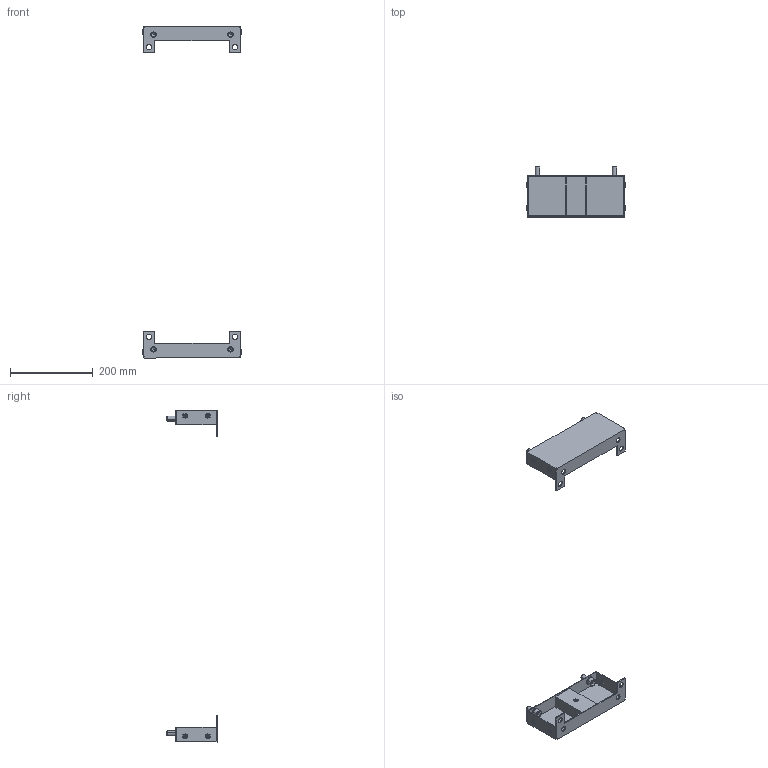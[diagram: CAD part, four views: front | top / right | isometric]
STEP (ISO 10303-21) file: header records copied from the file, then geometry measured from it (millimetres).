
FILE_DESCRIPTION (( 'STEP AP203' ), '1' );
FILE_NAME ('R6PLB30 H=800.STEP', '2025-05-16T11:40:33', ( '' ), ( '' ), 'SwSTEP 2.0', 'SolidWorks 2022', '' );
FILE_SCHEMA (( 'CONFIG_CONTROL_DESIGN' ));
Length unit declared in the file: millimetre
Products named in the file (8): RB.3309.00.01.0 simple_-01; M12x25 DIN 912 HX cl.8,8 Zinc_stright; RB.3309.00.00.0 СБ simple_-01; M6 MGS-MPO-0635_straight; R6PLB30 H=800; 12 DIN 6798 A Zinc; RB.3309.00.02.0 simple; M6 MGS-MPO-0635_thread
Assembly tree (17 placements, depth 3):
  R6PLB30 H=800
    RB.3309.00.00.0 СБ simple_-01  x2
      RB.3309.00.01.0 simple_-01
      M6 MGS-MPO-0635_thread
      RB.3309.00.02.0 simple
      M6 MGS-MPO-0635_straight
    12 DIN 6798 A Zinc  x4
    M12x25 DIN 912 HX cl.8,8 Zinc_stright  x4
Bounding box: 236.7 x 121.5 x 800 mm (x, y, z)
Volume: 302950.7 mm3; surface area: 250656.7 mm2
Topology: 22 solids, 22 shells, 1388 faces, 3688 edges, 2136 vertices
Faces by surface type: plane 548, cylinder 484, bspline 168, sphere 120, cone 36, torus 32
Entity records: 14938 total; most frequent: CARTESIAN_POINT 5753, ORIENTED_EDGE 1768, DIRECTION 1535, EDGE_CURVE 884, VERTEX_POINT 558, LINE 533, VECTOR 533, AXIS2_PLACEMENT_3D 501
